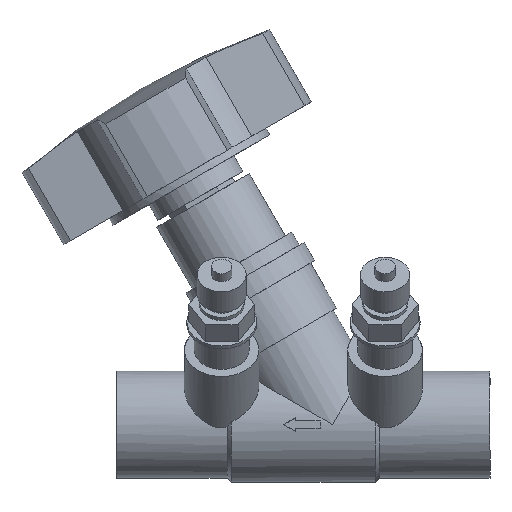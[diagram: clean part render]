
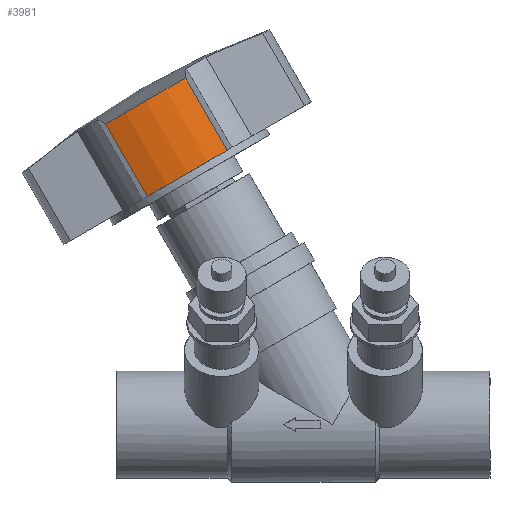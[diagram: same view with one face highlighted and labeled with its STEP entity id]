
A CAD part, front view. The second image highlights one B-rep face of the part: STEP entity #3981.
In plain terms, the highlighted cylindrical face has radius 1.37 mm (diameter 2.74 mm), a partial arc.
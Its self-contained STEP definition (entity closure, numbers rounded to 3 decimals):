
#2798 = PLANE('',#2799);
#2799 = AXIS2_PLACEMENT_3D('',#2800,#2801,#2802);
#2800 = CARTESIAN_POINT('',(11.317,-1.37,9.221));
#2801 = DIRECTION('',(-0.5,0.,0.866));
#2802 = DIRECTION('',(0.866,0.,0.5));
#2827 = VERTEX_POINT('',#2828);
#2828 = CARTESIAN_POINT('',(11.701,-2.667,
    9.443));
#2842 = PLANE('',#2843);
#2843 = AXIS2_PLACEMENT_3D('',#2844,#2845,#2846);
#2844 = CARTESIAN_POINT('',(11.744,-2.084,
    9.468));
#2845 = DIRECTION('',(0.863,-0.086,0.498)
  );
#2846 = DIRECTION('',(0.074,0.996,
    0.043));
#2854 = EDGE_CURVE('',#2855,#2827,#2857,.T.);
#2855 = VERTEX_POINT('',#2856);
#2856 = CARTESIAN_POINT('',(10.934,-2.667,
    9.));
#2857 = SURFACE_CURVE('',#2858,(#2863,#2870),.PCURVE_S1.);
#2858 = CIRCLE('',#2859,1.37);
#2859 = AXIS2_PLACEMENT_3D('',#2860,#2861,#2862);
#2860 = CARTESIAN_POINT('',(11.317,-1.37,9.221));
#2861 = DIRECTION('',(-0.5,0.,0.866));
#2862 = DIRECTION('',(0.,-1.,0.));
#2863 = PCURVE('',#2798,#2864);
#2864 = DEFINITIONAL_REPRESENTATION('',(#2865),#2869);
#2865 = CIRCLE('',#2866,1.37);
#2866 = AXIS2_PLACEMENT_2D('',#2867,#2868);
#2867 = CARTESIAN_POINT('',(0.,0.));
#2868 = DIRECTION('',(0.,-1.));
#2869 = ( GEOMETRIC_REPRESENTATION_CONTEXT(2) 
PARAMETRIC_REPRESENTATION_CONTEXT() REPRESENTATION_CONTEXT('2D SPACE',''
  ) );
#2870 = PCURVE('',#2871,#2876);
#2871 = CYLINDRICAL_SURFACE('',#2872,1.37);
#2872 = AXIS2_PLACEMENT_3D('',#2873,#2874,#2875);
#2873 = CARTESIAN_POINT('',(11.317,-1.37,9.221));
#2874 = DIRECTION('',(-0.5,0.,0.866));
#2875 = DIRECTION('',(0.,-1.,0.));
#2876 = DEFINITIONAL_REPRESENTATION('',(#2877),#2881);
#2877 = LINE('',#2878,#2879);
#2878 = CARTESIAN_POINT('',(0.,0.));
#2879 = VECTOR('',#2880,1.);
#2880 = DIRECTION('',(1.,0.));
#2881 = ( GEOMETRIC_REPRESENTATION_CONTEXT(2) 
PARAMETRIC_REPRESENTATION_CONTEXT() REPRESENTATION_CONTEXT('2D SPACE',''
  ) );
#2897 = PLANE('',#2898);
#2898 = AXIS2_PLACEMENT_3D('',#2899,#2900,#2901);
#2899 = CARTESIAN_POINT('',(10.934,-2.667,
    9.));
#2900 = DIRECTION('',(-0.863,-0.086,
    -0.498));
#2901 = DIRECTION('',(0.074,-0.996,
    0.043));
#3303 = EDGE_CURVE('',#3304,#3306,#3308,.T.);
#3304 = VERTEX_POINT('',#3305);
#3305 = CARTESIAN_POINT('',(11.301,-2.667,
    10.135));
#3306 = VERTEX_POINT('',#3307);
#3307 = CARTESIAN_POINT('',(10.534,-2.667,
    9.693));
#3308 = SURFACE_CURVE('',#3309,(#3314,#3326),.PCURVE_S1.);
#3309 = CIRCLE('',#3310,1.37);
#3310 = AXIS2_PLACEMENT_3D('',#3311,#3312,#3313);
#3311 = CARTESIAN_POINT('',(10.917,-1.37,9.914));
#3312 = DIRECTION('',(0.5,0.,-0.866));
#3313 = DIRECTION('',(0.,-1.,0.));
#3314 = PCURVE('',#3315,#3320);
#3315 = SPHERICAL_SURFACE('',#3316,7.57);
#3316 = AXIS2_PLACEMENT_3D('',#3317,#3318,#3319);
#3317 = CARTESIAN_POINT('',(14.64,-1.37,3.466));
#3318 = DIRECTION('',(0.5,0.,-0.866));
#3319 = DIRECTION('',(0.866,0.,0.5));
#3320 = DEFINITIONAL_REPRESENTATION('',(#3321),#3325);
#3321 = LINE('',#3322,#3323);
#3322 = CARTESIAN_POINT('',(-10.996,-1.389));
#3323 = VECTOR('',#3324,1.);
#3324 = DIRECTION('',(1.,0.));
#3325 = ( GEOMETRIC_REPRESENTATION_CONTEXT(2) 
PARAMETRIC_REPRESENTATION_CONTEXT() REPRESENTATION_CONTEXT('2D SPACE',''
  ) );
#3326 = PCURVE('',#2871,#3327);
#3327 = DEFINITIONAL_REPRESENTATION('',(#3328),#3332);
#3328 = LINE('',#3329,#3330);
#3329 = CARTESIAN_POINT('',(12.566,0.8));
#3330 = VECTOR('',#3331,1.);
#3331 = DIRECTION('',(-1.,0.));
#3332 = ( GEOMETRIC_REPRESENTATION_CONTEXT(2) 
PARAMETRIC_REPRESENTATION_CONTEXT() REPRESENTATION_CONTEXT('2D SPACE',''
  ) );
#3981 = ADVANCED_FACE('',(#3982),#2871,.T.);
#3982 = FACE_BOUND('',#3983,.T.);
#3983 = EDGE_LOOP('',(#3984,#3985,#4006,#4007));
#3984 = ORIENTED_EDGE('',*,*,#3303,.T.);
#3985 = ORIENTED_EDGE('',*,*,#3986,.F.);
#3986 = EDGE_CURVE('',#2855,#3306,#3987,.T.);
#3987 = SURFACE_CURVE('',#3988,(#3992,#3999),.PCURVE_S1.);
#3988 = LINE('',#3989,#3990);
#3989 = CARTESIAN_POINT('',(10.934,-2.667,
    9.));
#3990 = VECTOR('',#3991,1.);
#3991 = DIRECTION('',(-0.5,0.,0.866));
#3992 = PCURVE('',#2871,#3993);
#3993 = DEFINITIONAL_REPRESENTATION('',(#3994),#3998);
#3994 = LINE('',#3995,#3996);
#3995 = CARTESIAN_POINT('',(5.954,0.));
#3996 = VECTOR('',#3997,1.);
#3997 = DIRECTION('',(0.,1.));
#3998 = ( GEOMETRIC_REPRESENTATION_CONTEXT(2) 
PARAMETRIC_REPRESENTATION_CONTEXT() REPRESENTATION_CONTEXT('2D SPACE',''
  ) );
#3999 = PCURVE('',#2897,#4000);
#4000 = DEFINITIONAL_REPRESENTATION('',(#4001),#4005);
#4001 = LINE('',#4002,#4003);
#4002 = CARTESIAN_POINT('',(0.,0.));
#4003 = VECTOR('',#4004,1.);
#4004 = DIRECTION('',(0.,1.));
#4005 = ( GEOMETRIC_REPRESENTATION_CONTEXT(2) 
PARAMETRIC_REPRESENTATION_CONTEXT() REPRESENTATION_CONTEXT('2D SPACE',''
  ) );
#4006 = ORIENTED_EDGE('',*,*,#2854,.T.);
#4007 = ORIENTED_EDGE('',*,*,#4008,.T.);
#4008 = EDGE_CURVE('',#2827,#3304,#4009,.T.);
#4009 = SURFACE_CURVE('',#4010,(#4014,#4021),.PCURVE_S1.);
#4010 = LINE('',#4011,#4012);
#4011 = CARTESIAN_POINT('',(11.701,-2.667,
    9.443));
#4012 = VECTOR('',#4013,1.);
#4013 = DIRECTION('',(-0.5,0.,0.866));
#4014 = PCURVE('',#2871,#4015);
#4015 = DEFINITIONAL_REPRESENTATION('',(#4016),#4020);
#4016 = LINE('',#4017,#4018);
#4017 = CARTESIAN_POINT('',(6.612,0.));
#4018 = VECTOR('',#4019,1.);
#4019 = DIRECTION('',(0.,1.));
#4020 = ( GEOMETRIC_REPRESENTATION_CONTEXT(2) 
PARAMETRIC_REPRESENTATION_CONTEXT() REPRESENTATION_CONTEXT('2D SPACE',''
  ) );
#4021 = PCURVE('',#2842,#4022);
#4022 = DEFINITIONAL_REPRESENTATION('',(#4023),#4027);
#4023 = LINE('',#4024,#4025);
#4024 = CARTESIAN_POINT('',(-0.585,0.));
#4025 = VECTOR('',#4026,1.);
#4026 = DIRECTION('',(0.,1.));
#4027 = ( GEOMETRIC_REPRESENTATION_CONTEXT(2) 
PARAMETRIC_REPRESENTATION_CONTEXT() REPRESENTATION_CONTEXT('2D SPACE',''
  ) );
